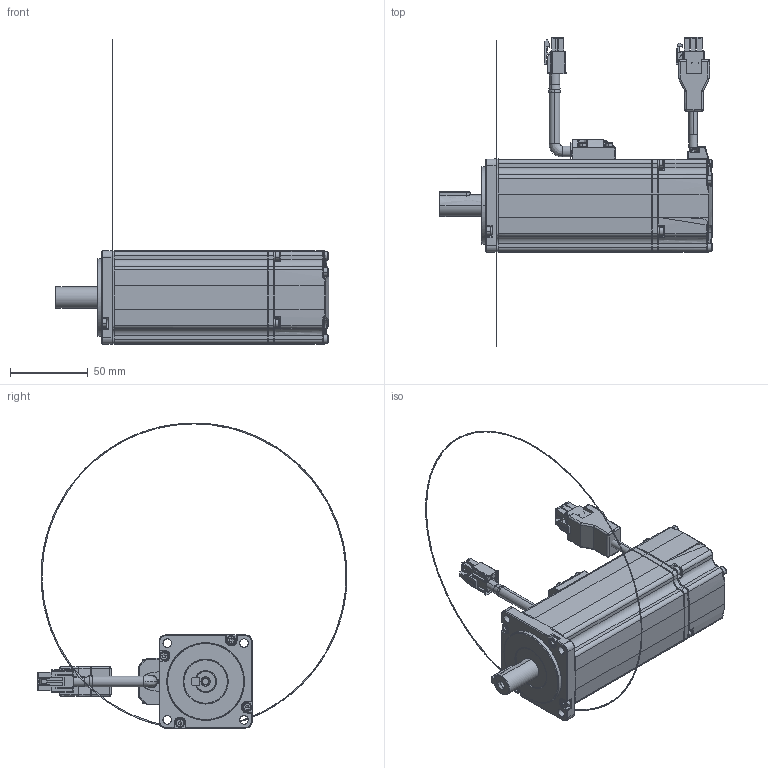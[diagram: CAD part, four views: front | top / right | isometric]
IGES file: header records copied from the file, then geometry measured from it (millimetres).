
Start section: SolidWorks IGES file using analytic representation for surfaces
Bounding box: 176.5 x 199.82 x 197.29 mm (x, y, z)
Surface area: 58159.5 mm2 (no closed solid volume)
Topology: 0 solids, 0 shells, 1307 faces, 9371 edges, 9313 vertices
Faces by surface type: bspline 720, revolution 587
